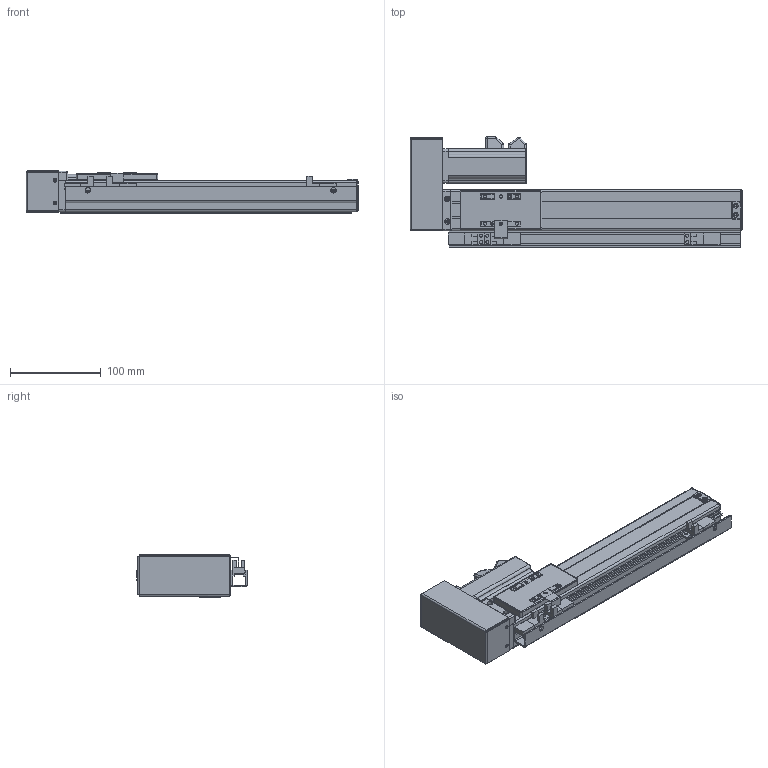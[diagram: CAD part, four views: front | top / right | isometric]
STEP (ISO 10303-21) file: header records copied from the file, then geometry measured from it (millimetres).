
FILE_DESCRIPTION (( 'STEP AP203' ), '1' );
FILE_NAME ('VT4-L12-C-S200-BR-P10-D4.STEP', '2015-10-26T03:43:03', ( '' ), ( '' ), 'SwSTEP 2.0', 'SolidWorks 2013', '' );
FILE_SCHEMA (( 'CONFIG_CONTROL_DESIGN' ));
Length unit declared in the file: millimetre
Products named in the file (17): T4-BLRM ヶ傷揤輸_A6061; 侂狟100W MSMD012G1U; 詩湍; T4-BLR 萇儂欶; T4-BLRM 粣創釱; VT4-L12-C-S200-BR-P10-D4; T4-綴傷裔; T4-BLR 100w萇儂假蚾啣_A6061; T4-耜啣羲耀芞2_俴最200; T4-賑雄殤; T4-裔啣; T4-揤輸; T4-覜茼え; T6-癹弇羲壽羞_俴最200; EE-SX674-WR; SFKR0802佪裝TBI_俴最200; MGW12C-絳寢_俴最200
Assembly tree (19 placements, depth 2):
  VT4-L12-C-S200-BR-P10-D4
    T4-綴傷裔
    T4-耜啣羲耀芞2_俴最200  x2
    T4-賑雄殤
    T4-裔啣
    T4-揤輸
    T4-覜茼え
    T6-癹弇羲壽羞_俴最200
    EE-SX674-WR  x3
    SFKR0802佪裝TBI_俴最200
    MGW12C-絳寢_俴最200
    侂狟100W MSMD012G1U
    T4-BLR 100w萇儂假蚾啣_A6061
    T4-BLRM 粣創釱
    T4-BLRM ヶ傷揤輸_A6061
    詩湍
    T4-BLR 萇儂欶
Bounding box: 365 x 121 x 46.25 mm (x, y, z)
Volume: 401609.8 mm3; surface area: 280983.1 mm2
Topology: 22 solids, 22 shells, 1222 faces, 3266 edges, 2065 vertices
Faces by surface type: plane 563, cylinder 544, cone 57, torus 30, sphere 20, bspline 8
Entity records: 34433 total; most frequent: CARTESIAN_POINT 6561, DIRECTION 5582, ORIENTED_EDGE 5308, EDGE_CURVE 2654, AXIS2_PLACEMENT_3D 1998, VERTEX_POINT 1699, LINE 1586, VECTOR 1586
